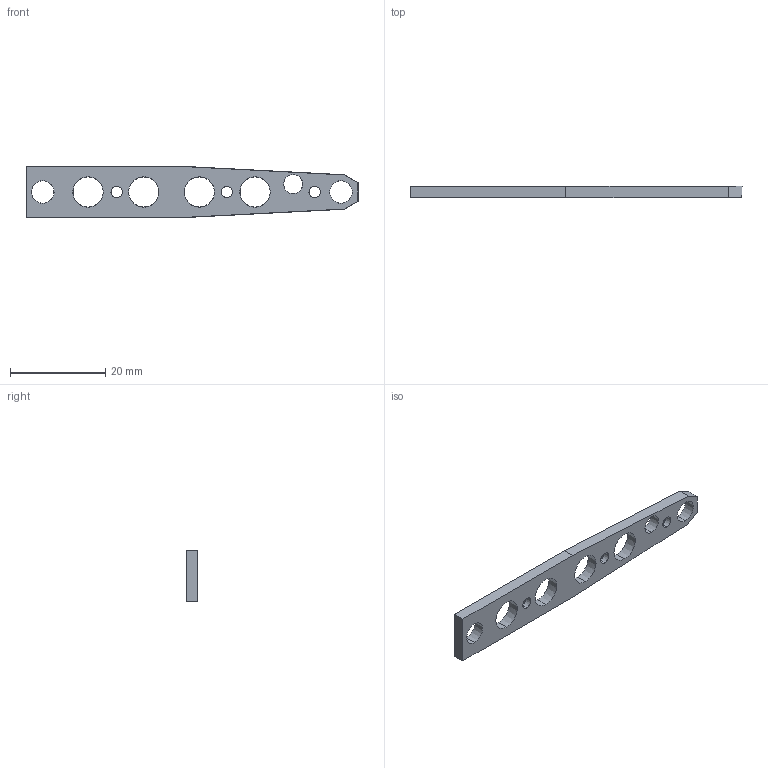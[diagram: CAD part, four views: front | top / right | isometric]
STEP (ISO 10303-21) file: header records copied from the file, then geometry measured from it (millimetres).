
FILE_DESCRIPTION (( 'STEP AP214' ), '1' );
FILE_NAME ('010701_LnG_syringe_top_rA.STEP', '2023-01-26T17:54:27', ( '' ), ( '' ), 'SwSTEP 2.0', 'SolidWorks 2019', '' );
FILE_SCHEMA (( 'AUTOMOTIVE_DESIGN' ));
Length unit declared in the file: millimetre
Products named in the file (1): 010701_LnG_syringe_top_rA
Bounding box: 69.58 x 2.4 x 10.8 mm (x, y, z)
Volume: 1141.5 mm3; surface area: 1675.7 mm2
Topology: 1 solids, 1 shells, 36 faces, 96 edges, 62 vertices
Faces by surface type: cone 26, plane 10
Entity records: 1212 total; most frequent: DIRECTION 216, CARTESIAN_POINT 195, ORIENTED_EDGE 192, EDGE_CURVE 96, AXIS2_PLACEMENT_3D 83, VERTEX_POINT 62, EDGE_LOOP 56, LINE 50
